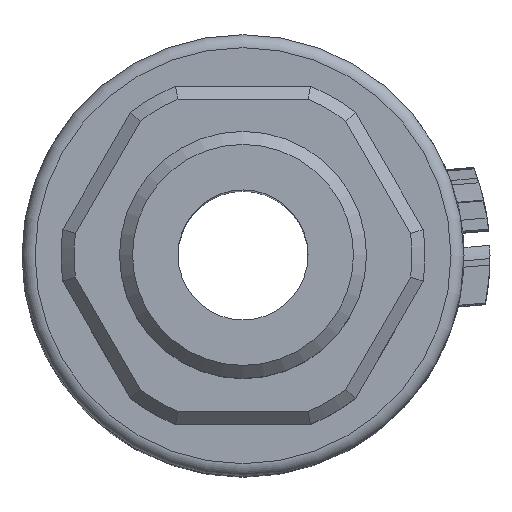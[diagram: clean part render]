
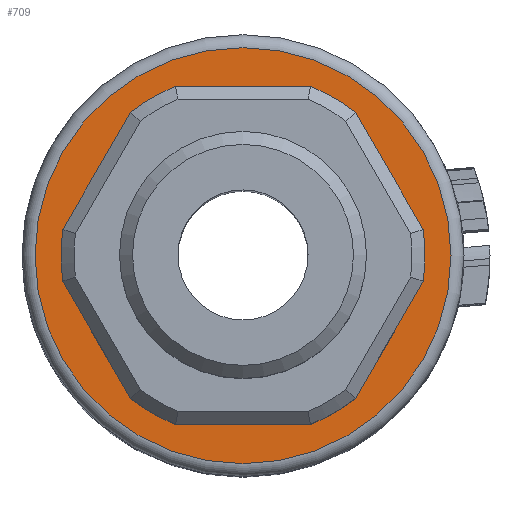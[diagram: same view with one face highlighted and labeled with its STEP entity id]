
A CAD part, top view. The second image highlights one B-rep face of the part: STEP entity #709.
In plain terms, the highlighted planar face has unit normal (0, 0, 1).
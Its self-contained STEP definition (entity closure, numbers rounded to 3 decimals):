
#138=FACE_BOUND('',#1575,.T.);
#139=FACE_BOUND('',#1576,.T.);
#272=CIRCLE('',#6695,5.);
#273=CIRCLE('',#6696,8.);
#419=PLANE('',#6697);
#709=ADVANCED_FACE('',(#138,#139),#419,.F.);
#1575=EDGE_LOOP('',(#3548));
#1576=EDGE_LOOP('',(#3549));
#3548=ORIENTED_EDGE('',*,*,#5425,.T.);
#3549=ORIENTED_EDGE('',*,*,#5426,.F.);
#4562=VERTEX_POINT('',#14163);
#4563=VERTEX_POINT('',#14165);
#5425=EDGE_CURVE('',#4562,#4562,#272,.T.);
#5426=EDGE_CURVE('',#4563,#4563,#273,.T.);
#6695=AXIS2_PLACEMENT_3D('',#14162,#7665,#7666);
#6696=AXIS2_PLACEMENT_3D('',#14164,#7667,#7668);
#6697=AXIS2_PLACEMENT_3D('',#14166,#7669,#7670);
#7665=DIRECTION('',(0.,0.,-1.));
#7666=DIRECTION('',(-1.,0.,0.));
#7667=DIRECTION('',(0.,0.,-1.));
#7668=DIRECTION('',(-1.,0.,0.));
#7669=DIRECTION('',(0.,0.,-1.));
#7670=DIRECTION('',(-1.,0.,0.));
#14162=CARTESIAN_POINT('',(0.,0.,22.));
#14163=CARTESIAN_POINT('',(-5.,0.,22.));
#14164=CARTESIAN_POINT('',(0.,0.,22.));
#14165=CARTESIAN_POINT('',(-8.,0.,22.));
#14166=CARTESIAN_POINT('',(0.,0.,22.));
